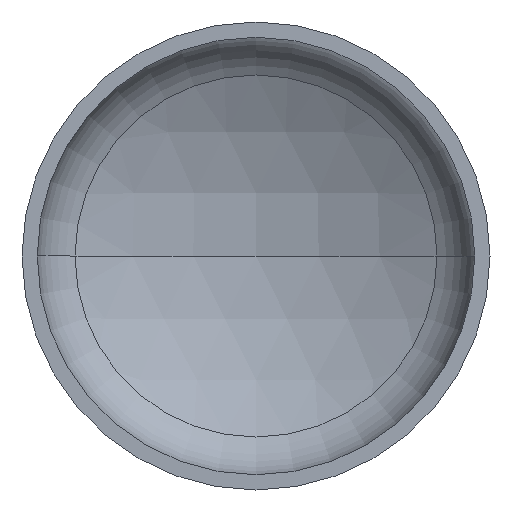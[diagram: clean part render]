
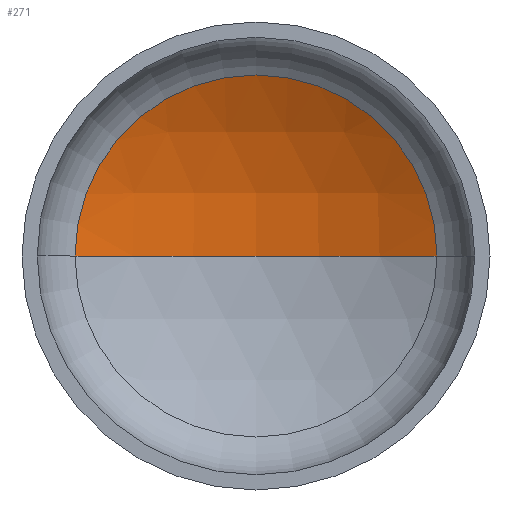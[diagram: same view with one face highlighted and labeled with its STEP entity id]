
A CAD part, front view. The second image highlights one B-rep face of the part: STEP entity #271.
In plain terms, the highlighted spherical face has radius 640 mm.
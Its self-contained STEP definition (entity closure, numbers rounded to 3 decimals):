
#11 = AXIS2_PLACEMENT_3D ( 'NONE', #70, #88, #93 ) ;
#12 = AXIS2_PLACEMENT_3D ( 'NONE', #255, #362, #277 ) ;
#17 = AXIS2_PLACEMENT_3D ( 'NONE', #104, #123, #116 ) ;
#18 = CIRCLE ( 'NONE', #12, 309.437 ) ;
#21 = EDGE_LOOP ( 'NONE', ( #121, #196, #219 ) ) ;
#27 = AXIS2_PLACEMENT_3D ( 'NONE', #193, #150, #253 ) ;
#35 = VERTEX_POINT ( 'NONE', #290 ) ;
#70 = CARTESIAN_POINT ( 'NONE',  ( 0., -365.804, 0. ) ) ;
#88 = DIRECTION ( 'NONE',  ( 0., 0., -1. ) ) ;
#93 = DIRECTION ( 'NONE',  ( -1., 0., 0. ) ) ;
#104 = CARTESIAN_POINT ( 'NONE',  ( 0., -365.804, 0. ) ) ;
#112 = FACE_OUTER_BOUND ( 'NONE', #21, .T. ) ;
#116 = DIRECTION ( 'NONE',  ( 1., 0., 0. ) ) ;
#121 = ORIENTED_EDGE ( 'NONE', *, *, #354, .F. ) ;
#123 = DIRECTION ( 'NONE',  ( 0., 0., 1. ) ) ;
#124 = CARTESIAN_POINT ( 'NONE',  ( -309.437, 194.418, 0. ) ) ;
#130 = VERTEX_POINT ( 'NONE', #164 ) ;
#150 = DIRECTION ( 'NONE',  ( 0., 0., -1. ) ) ;
#164 = CARTESIAN_POINT ( 'NONE',  ( 309.437, 194.418, 0. ) ) ;
#181 = CIRCLE ( 'NONE', #17, 640. ) ;
#191 = VERTEX_POINT ( 'NONE', #124 ) ;
#193 = CARTESIAN_POINT ( 'NONE',  ( 0., -365.804, 0. ) ) ;
#196 = ORIENTED_EDGE ( 'NONE', *, *, #376, .T. ) ;
#219 = ORIENTED_EDGE ( 'NONE', *, *, #364, .T. ) ;
#253 = DIRECTION ( 'NONE',  ( -1., 0., 0. ) ) ;
#255 = CARTESIAN_POINT ( 'NONE',  ( 0., 194.418, 0. ) ) ;
#271 = ADVANCED_FACE ( 'NONE', ( #112 ), #330, .F. ) ;
#277 = DIRECTION ( 'NONE',  ( 1., 0., 0. ) ) ;
#290 = CARTESIAN_POINT ( 'NONE',  ( 0., 274.196, 0. ) ) ;
#330 = SPHERICAL_SURFACE ( 'NONE', #27, 640. ) ;
#354 = EDGE_CURVE ( 'NONE', #35, #191, #181, .T. ) ;
#361 = CIRCLE ( 'NONE', #11, 640. ) ;
#362 = DIRECTION ( 'NONE',  ( 0., -1., 0. ) ) ;
#364 = EDGE_CURVE ( 'NONE', #130, #191, #18, .T. ) ;
#376 = EDGE_CURVE ( 'NONE', #35, #130, #361, .T. ) ;
